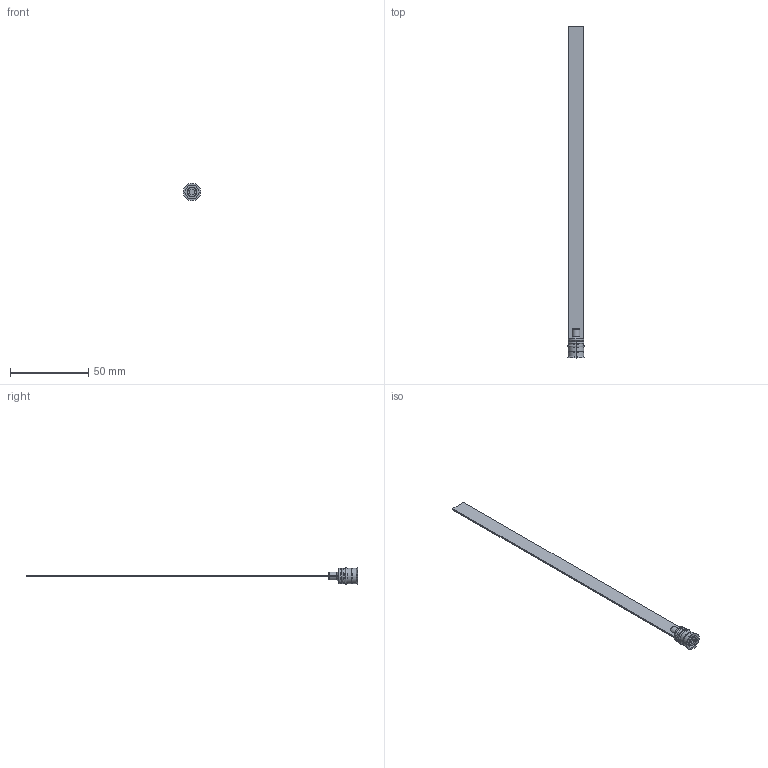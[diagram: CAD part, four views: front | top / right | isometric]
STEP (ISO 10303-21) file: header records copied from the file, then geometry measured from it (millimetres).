
FILE_DESCRIPTION (( 'STEP AP203' ), '1' );
FILE_NAME ('RL-10Fx200.STEP', '2015-12-02T09:54:34', ( 'Balzi' ), ( '' ), 'SwSTEP 2.0', 'SolidWorks 2015', '' );
FILE_SCHEMA (( 'CONFIG_CONTROL_DESIGN' ));
Length unit declared in the file: millimetre
Products named in the file (1): RL-10Fx200
Bounding box: 11.3 x 212.5 x 11.3 mm (x, y, z)
Volume: 2885.5 mm3; surface area: 5221.6 mm2
Topology: 1 solids, 1 shells, 72 faces, 171 edges, 105 vertices
Faces by surface type: plane 30, cylinder 17, cone 17, torus 8
Entity records: 2165 total; most frequent: CARTESIAN_POINT 399, DIRECTION 370, ORIENTED_EDGE 342, EDGE_CURVE 171, AXIS2_PLACEMENT_3D 140, VERTEX_POINT 105, VECTOR 90, LINE 90
